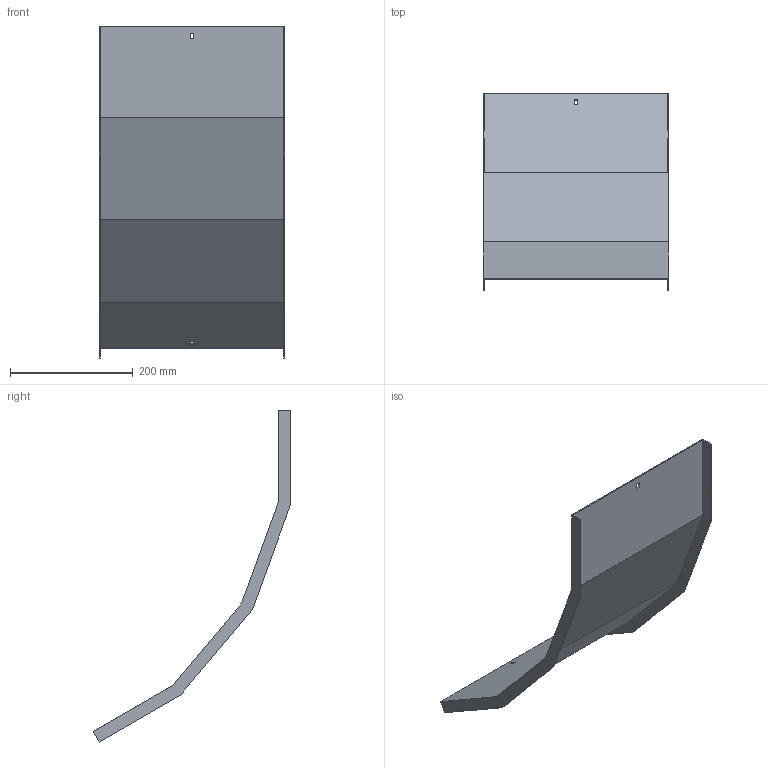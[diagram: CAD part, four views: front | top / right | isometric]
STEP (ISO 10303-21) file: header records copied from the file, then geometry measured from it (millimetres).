
FILE_DESCRIPTION (( 'STEP AP214' ), '1' );
FILE_NAME ('B2X40N5R300X.step', '2025-03-20T09:45:07', ( '' ), ( '' ), 'SwSTEP 2.0', 'SolidWorks 2023', '' );
FILE_SCHEMA (( 'AUTOMOTIVE_DESIGN' ));
Length unit declared in the file: millimetre
Products named in the file (1): B2X40N5R300X
Bounding box: 303 x 322.96 x 542.06 mm (x, y, z)
Volume: 333030.3 mm3; surface area: 447168.7 mm2
Topology: 1 solids, 1 shells, 30 faces, 84 edges, 56 vertices
Faces by surface type: plane 30
Entity records: 979 total; most frequent: CARTESIAN_POINT 171, ORIENTED_EDGE 168, DIRECTION 146, LINE 84, EDGE_CURVE 84, VECTOR 84, VERTEX_POINT 56, EDGE_LOOP 34
